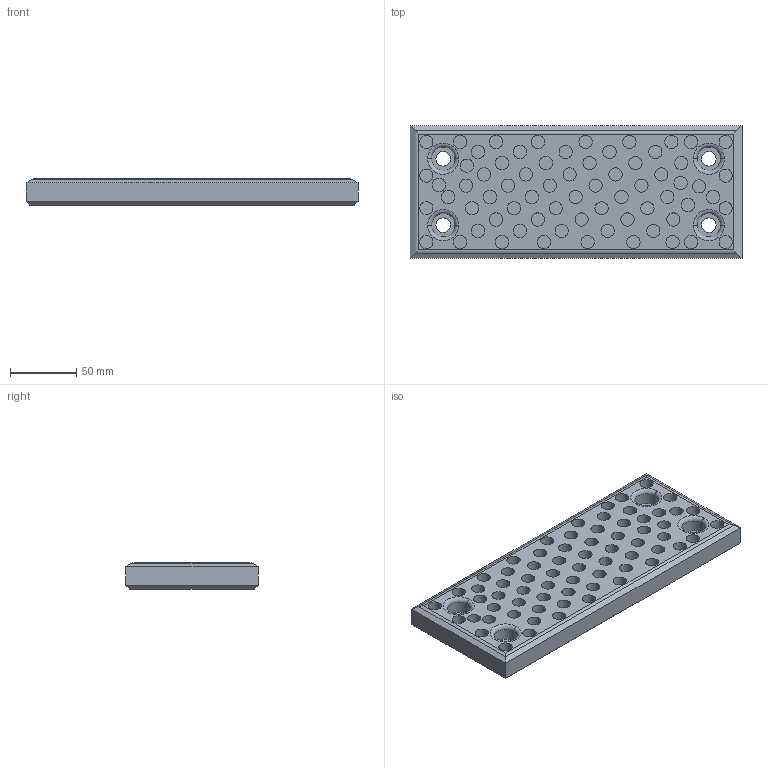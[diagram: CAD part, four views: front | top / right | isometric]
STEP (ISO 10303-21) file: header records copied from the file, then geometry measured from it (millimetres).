
FILE_DESCRIPTION (( 'STEP AP214' ), '1' );
FILE_NAME ('SW224-02-100x250.STEP', '2020-10-19T08:00:07', ( 'August' ), ( '' ), 'SwSTEP 2.0', 'SolidWorks 2018', '' );
FILE_SCHEMA (( 'AUTOMOTIVE_DESIGN' ));
Length unit declared in the file: millimetre
Products named in the file (1): SW224-02-100x250
Bounding box: 250 x 100 x 20 mm (x, y, z)
Volume: 426181.5 mm3; surface area: 84051.9 mm2
Topology: 1 solids, 1 shells, 253 faces, 514 edges, 336 vertices
Faces by surface type: cylinder 158, plane 87, torus 8
Entity records: 7387 total; most frequent: DIRECTION 1334, CARTESIAN_POINT 1187, ORIENTED_EDGE 1028, AXIS2_PLACEMENT_3D 578, EDGE_CURVE 514, VERTEX_POINT 336, EDGE_LOOP 334, CIRCLE 324
